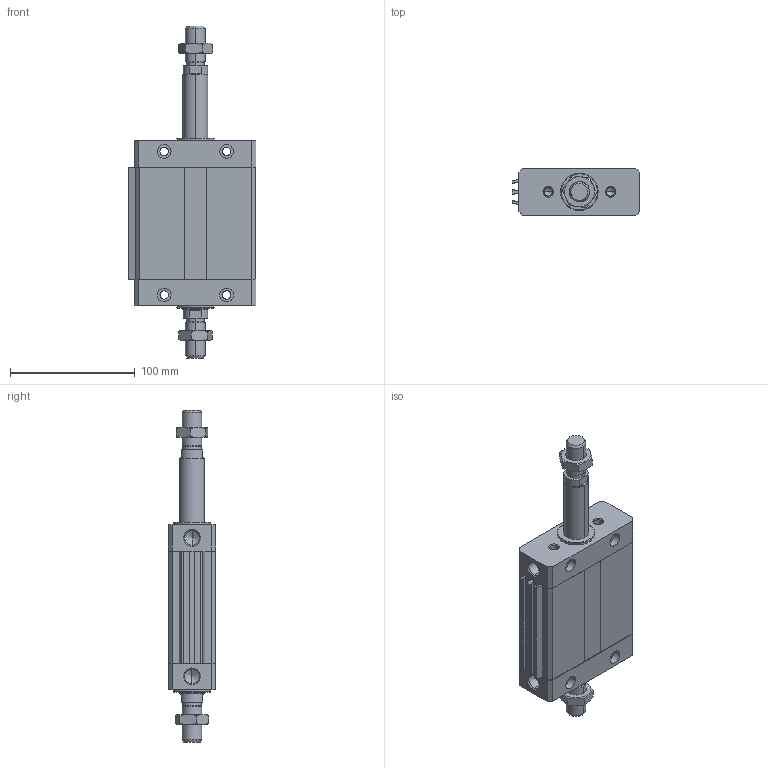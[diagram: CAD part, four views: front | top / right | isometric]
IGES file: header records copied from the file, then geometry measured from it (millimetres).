
Global section: file name: No Iges File Name specified; native system: Autodesk Inventor 2011; preprocessor: AutoDesk Inventor Iges Exporter R2011; author: airolcr1; date: 20101213.153311; units: millimetre
Bounding box: 102.5 x 38 x 266 mm (x, y, z)
Volume: 418668.3 mm3; surface area: 112123.5 mm2
Topology: 6 solids, 6 shells, 280 faces, 664 edges, 396 vertices
Faces by surface type: bspline 114, plane 98, cone 36, cylinder 18, revolution 14
